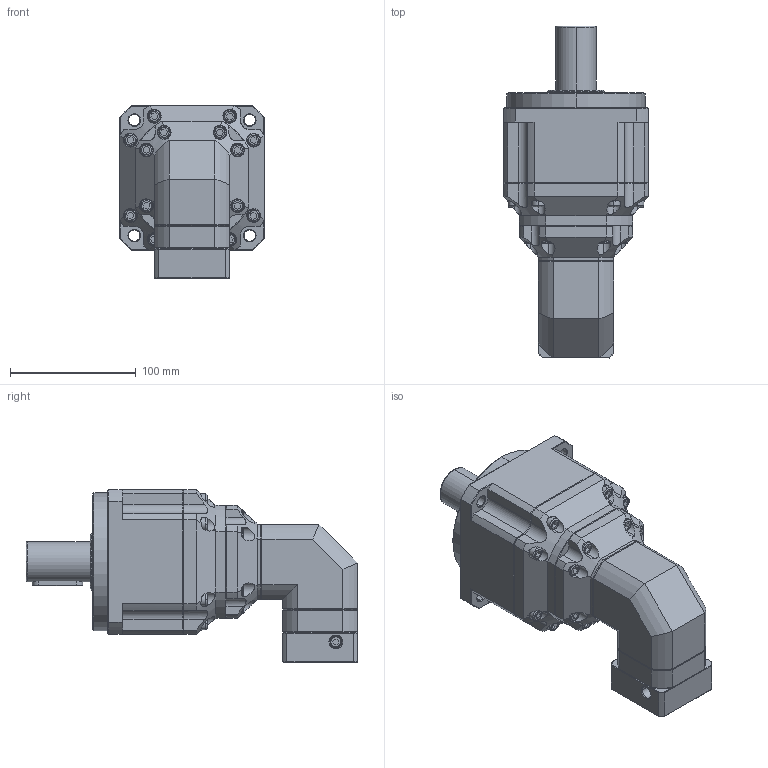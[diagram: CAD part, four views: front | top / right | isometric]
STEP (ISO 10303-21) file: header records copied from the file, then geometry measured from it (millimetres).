
FILE_DESCRIPTION (( 'STEP AP214' ), '1' );
FILE_NAME ('ZPBR115-D32-L3-P1-8-30-46-M4.step', '2024-06-29T08:11:15', ( 'Windows 蚚誧' ), ( 'Organization' ), 'SwSTEP 2.0', 'SolidWorks 2016', '' );
FILE_SCHEMA (( 'AUTOMOTIVE_DESIGN' ));
Length unit declared in the file: millimetre
Products named in the file (1): ZPBR115-D32-L3-P1-8-30-46-M4
Bounding box: 115 x 264 x 137.5 mm (x, y, z)
Surface area: 130922.8 mm2 (no closed solid volume)
Topology: 0 solids, 3 shells, 1980 faces, 5284 edges, 3418 vertices
Faces by surface type: plane 1140, bspline 413, cylinder 239, cone 188
Full cylindrical faces by diameter (mm): 10.2 x1
Entity records: 107259 total; most frequent: CARTESIAN_POINT 52425, ORIENTED_EDGE 10546, DIRECTION 7916, EDGE_CURVE 5282, VECTOR 3444, LINE 3444, VERTEX_POINT 3417, AXIS2_PLACEMENT_3D 2236
